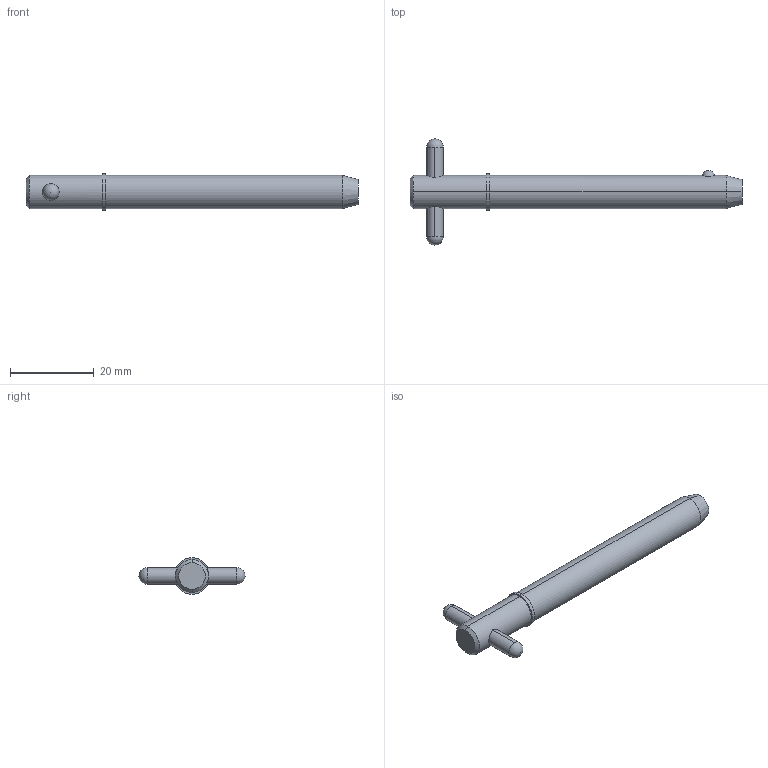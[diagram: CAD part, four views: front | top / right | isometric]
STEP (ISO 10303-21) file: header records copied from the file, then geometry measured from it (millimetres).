
FILE_DESCRIPTION (( 'STEP AP203' ), '1' );
FILE_NAME ('33018.W3120.step', '2024-11-19T17:09:30', ( '' ), ( '' ), 'SwSTEP 2.0', 'SolidWorks 2019', '' );
FILE_SCHEMA (( 'CONFIG_CONTROL_DESIGN' ));
Length unit declared in the file: millimetre
Products named in the file (3): 33018.W3120; Part2_33018.W3120; Part1_33018.W3120
Assembly tree (2 placements, depth 2):
  33018.W3120
    Part1_33018.W3120
    Part2_33018.W3120
Bounding box: 79.38 x 25.4 x 8.73 mm (x, y, z)
Volume: 4096.6 mm3; surface area: 2447.2 mm2
Topology: 2 solids, 2 shells, 22 faces, 47 edges, 30 vertices
Faces by surface type: cylinder 10, sphere 4, cone 4, plane 4
Entity records: 1013 total; most frequent: CARTESIAN_POINT 256, DIRECTION 110, ORIENTED_EDGE 82, AXIS2_PLACEMENT_3D 48, EDGE_CURVE 41, EDGE_LOOP 27, VERTEX_POINT 26, PERSON_AND_ORGANIZATION 26
